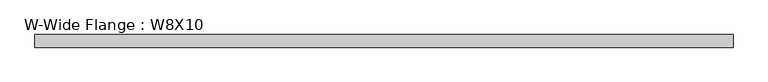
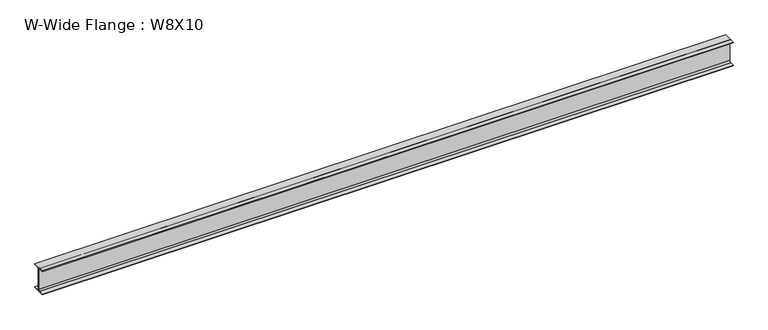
"""IFC4 building model written with IfcOpenShell, lengths in millimetres: beam geometry, W-Wide Flange : W8X10."""

from ifc_helpers import new_model, si_unit, point, frame, frame_2d, origin, place, context, project, spatial, polyline, circle_curve, trimmed, segment, composite_curve, outline, extrude, source, transform, mapped, element, save


def w_wide_flange_w8x10_418ab950(model_context):
    return source(origin(), model_context, "Body", "SweptSolid", [
        extrude(outline(composite_curve([segment(polyline([(50.038, -94.996), (50.038, -100.203), (-50.038, -100.203), (-50.038, -94.996), (-14.4145, -94.996)]), True, "CONTINUOUS"), segment(trimmed(circle_curve(frame_2d((-14.4145, -82.7405)), 12.2555), [point((-14.4145, -94.996))], [point((-2.159, -82.7405))], True, "CARTESIAN"), True, "CONTINUOUS"), segment(polyline([(-2.159, -82.7405), (-2.159, 82.7405)]), True, "CONTINUOUS"), segment(trimmed(circle_curve(frame_2d((-14.4145, 82.7405)), 12.2555), [point((-2.159, 82.7405))], [point((-14.4145, 94.996))], True, "CARTESIAN"), True, "CONTINUOUS"), segment(polyline([(-14.4145, 94.996), (-50.038, 94.996), (-50.038, 100.203), (50.038, 100.203), (50.038, 94.996), (14.4145, 94.996)]), True, "CONTINUOUS"), segment(trimmed(circle_curve(frame_2d((14.4145, 82.7405)), 12.2555), [point((14.4145, 94.996))], [point((2.159, 82.7405))], True, "CARTESIAN"), True, "CONTINUOUS"), segment(polyline([(2.159, 82.7405), (2.159, -82.7405)]), True, "CONTINUOUS"), segment(trimmed(circle_curve(frame_2d((14.4145, -82.7405)), 12.2555), [point((2.159, -82.7405))], [point((14.4145, -94.996))], True, "CARTESIAN"), True, "CONTINUOUS"), segment(polyline([(14.4145, -94.996), (50.038, -94.996)]), True, "CONTINUOUS")], self_intersect=False)), frame((-2769.4255, 0.0, 0.0), z_axis=(1.0, 0.0, 0.0), x_axis=(0.0, 1.0, 0.0)), (0.0, 0.0, 1.0), 5514.1633906),
    ])


if __name__ == "__main__":
    model = new_model("IFC4")
    model_context = context("Model", 3, world=origin())
    ifc_project = project(units=[si_unit("LENGTHUNIT", "METRE", prefix="MILLI")], contexts=[model_context])
    site = spatial("IfcSite", under=ifc_project)
    building = spatial("IfcBuilding", under=site)
    placement = place(None, origin())
    w_wide_flange_w8x10_shape = w_wide_flange_w8x10_418ab950(model_context)
    element("IfcBeam", 1, ObjectType="W-Wide Flange : W8X10", at=placement, inside=building, context=model_context, shape_type="MappedRepresentation", body=[
        mapped(w_wide_flange_w8x10_shape, transform((0.0, 0.0, 0.0), x_axis=(1.0, 0.0, 0.0), y_axis=(0.0, 1.0, 0.0), z_axis=(0.0, 0.0, 1.0))),
    ])
    save(model, "model.ifc")
